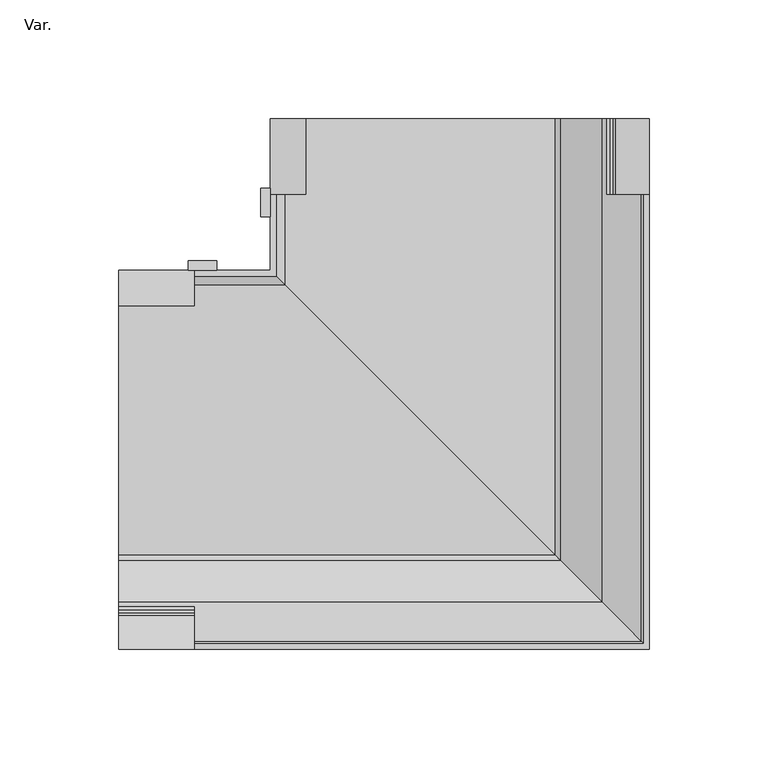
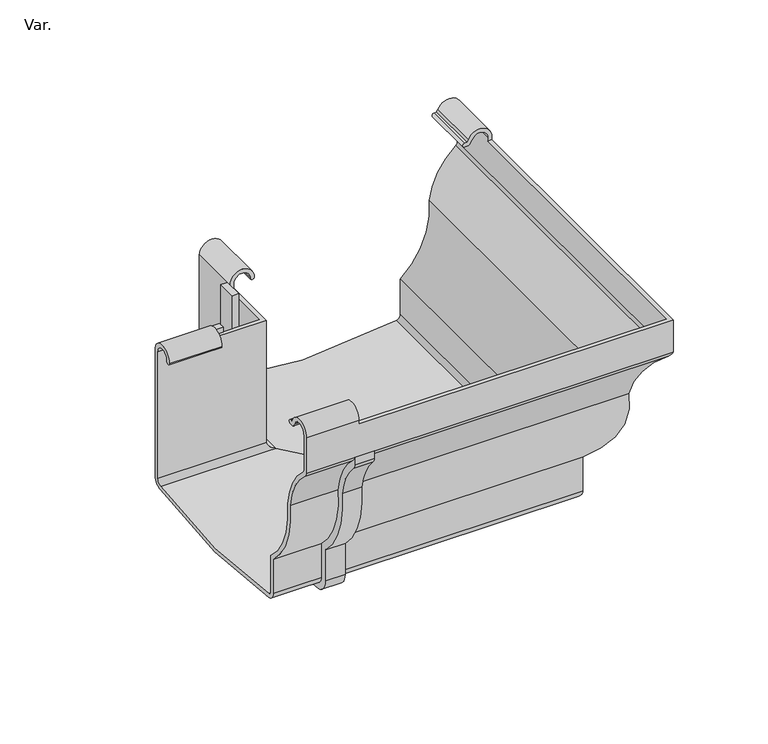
"""IFC4 building model written with IfcOpenShell, lengths in millimetres: pipe fitting geometry, PavcoWavin_UnionesDeTuberia_ZCanal Amazona_Unión Esquina Externa_NoUsarUnion : Var.."""

from ifc_helpers import new_model, si_unit, point, frame, frame_2d, origin, place, context, project, spatial, polyline, circle_curve, ellipse_curve, trimmed, segment, composite_curve, outline, extrude, source, transform, mapped, element, save
from ifc_brep_helpers import plane_surface, cylinder_surface, revolved_surface, advanced_brep


def var_76e6487b(model_context):
    return source(origin(), model_context, "Body", "SolidModel", [
        extrude(outline(composite_curve([segment(polyline([(96.4962733, 60.0049919), (14.9603918, 60.0049919)]), True, "CONTINUOUS"), segment(trimmed(circle_curve(frame_2d((14.9603918, 69.5049919)), 9.5), [point((14.9603918, 60.0049919))], [point((5.4746443, 68.9848065))], False, "CARTESIAN"), True, "CONTINUOUS"), segment(trimmed(circle_curve(frame_2d((309.4999331, 126.940598)), 309.5), [point((5.4746443, 68.9848065))], [point((5.5511355, 185.2962187))], False, "CARTESIAN"), True, "CONTINUOUS"), segment(trimmed(circle_curve(frame_2d((14.8807432, 183.5050122)), 9.5), [point((5.5511355, 185.2962187))], [point((14.9073616, 193.0049749))], False, "CARTESIAN"), True, "CONTINUOUS"), segment(polyline([(14.9073616, 193.0049749), (35.1173873, 193.0049749)]), True, "CONTINUOUS"), segment(trimmed(circle_curve(frame_2d((76.4908911, 154.5279274)), 56.5), [point((35.1173873, 193.0049749))], [point((82.3343431, 210.7249386))], False, "CARTESIAN"), True, "CONTINUOUS"), segment(trimmed(circle_curve(frame_2d((76.0467725, 251.7458656)), 41.5), [point((82.3343431, 210.7249386))], [point((105.305336, 222.3148197))], True, "CARTESIAN"), True, "CONTINUOUS"), segment(trimmed(circle_curve(frame_2d((109.5566406, 218.0384533)), 6.03), [point((105.305336, 222.3148197))], [point((108.6506267, 224.0))], False, "CARTESIAN"), True, "CONTINUOUS"), segment(polyline([(108.6506267, 224.0), (113.6433286, 224.0)]), True, "CONTINUOUS"), segment(trimmed(circle_curve(frame_2d((114.8327088, 218.630142)), 5.5), [point((113.6433286, 224.0))], [point((110.6499117, 222.2014455))], True, "CARTESIAN"), True, "CONTINUOUS"), segment(trimmed(circle_curve(frame_2d((76.0467725, 251.7458656)), 45.5), [point((110.6499117, 222.2014455))], [point((82.4106685, 206.6931096))], False, "CARTESIAN"), True, "CONTINUOUS"), segment(trimmed(circle_curve(frame_2d((76.4908911, 154.5279274)), 52.5), [point((82.4106685, 206.6931096))], [point((36.8981747, 189.0049749))], True, "CARTESIAN"), True, "CONTINUOUS"), segment(polyline([(36.8981747, 189.0049749), (14.9009967, 189.0049749)]), True, "CONTINUOUS"), segment(trimmed(circle_curve(frame_2d((14.8807432, 183.5050122)), 5.5), [point((14.9009967, 189.0049749))], [point((9.4793914, 184.5420265))], True, "CARTESIAN"), True, "CONTINUOUS"), segment(trimmed(circle_curve(frame_2d((309.4999331, 126.940598)), 305.5), [point((9.4793914, 184.5420265))], [point((9.4608251, 69.4359574))], True, "CARTESIAN"), True, "CONTINUOUS"), segment(trimmed(circle_curve(frame_2d((14.9603918, 69.5049919)), 5.5), [point((9.4608251, 69.4359574))], [point((14.9603918, 64.0049919))], True, "CARTESIAN"), True, "CONTINUOUS"), segment(polyline([(14.9603918, 64.0049919), (96.4962733, 64.0049919), (96.4962733, 60.0049919)]), True, "CONTINUOUS")], self_intersect=False)), frame((0.0, 85.6441381, 0.0), z_axis=(0.0, 1.0, 0.0), x_axis=(0.0, 0.0, 1.0)), (0.0, 0.0, 1.0), 12.0),
        advanced_brep(
        [(29.5, 67.1391462, 96.4962733), (29.5, 67.1391462, 14.9603918), (29.5, 58.1593316, 5.4746443), (29.5, -58.1520806, 5.5511355), (29.5, -65.8608368, 14.9073616), (29.5, -65.8608368, 35.1173873), (29.5, -83.5808004, 82.3343431), (29.5, -95.1706816, 105.305336), (29.5, -96.8558619, 108.6506267), (29.5, -96.8558619, 113.6433286), (29.5, -95.0573074, 110.6499117), (29.5, -79.5489715, 82.4106685), (29.5, -61.8608368, 36.8981747), (29.5, -61.8608368, 14.9009967), (29.5, -57.3978884, 9.4793914), (29.5, 57.7081808, 9.4608251), (29.5, 63.1391462, 14.9603918), (29.5, 63.1391462, 96.4962733), (41.5, 67.1391462, 96.4962733), (41.5, 63.1391462, 96.4962733), (41.5, 63.1391462, 93.5145617), (41.5, 63.1391462, 14.9603918), (41.5, 57.7081808, 9.4608251), (41.5, -57.3978884, 9.4793914), (41.5, -61.8608368, 14.9009967), (41.5, -61.8608368, 36.8981747), (41.5, -79.5489715, 82.4106685), (41.5, -95.0573074, 110.6499117), (41.5, -96.8558619, 113.6433286), (41.5, -96.8558619, 108.6506267), (41.5, -95.1706816, 105.305336), (41.5, -83.5808004, 82.3343431), (41.5, -65.8608368, 35.1173873), (41.5, -65.8608368, 14.9073616), (41.5, -58.1520806, 5.5511355), (41.5, 58.1593316, 5.4746443), (41.5, 67.1391462, 14.9603918), (32.0, 63.1391462, 96.4962733)],
        [
            (0, 1),
            (1, 2, circle_curve(frame((29.5, 57.6391462, 14.9603918), z_axis=(-1.0, 0.0, 0.0), x_axis=(0.0, -1.0, 0.0)), 9.5)),
            (2, 3, circle_curve(frame((29.5, 0.2035402, 309.4999331), z_axis=(-1.0, 0.0, 0.0), x_axis=(0.0, -1.0, 0.0)), 309.5)),
            (3, 4, circle_curve(frame((29.5, -56.3608741, 14.8807432), z_axis=(-1.0, 0.0, 0.0), x_axis=(0.0, -1.0, 0.0)), 9.5)),
            (4, 5),
            (5, 6, circle_curve(frame((29.5, -27.3837892, 76.4908911), z_axis=(-1.0, 0.0, 0.0), x_axis=(0.0, -1.0, 0.0)), 56.5)),
            (6, 7, circle_curve(frame((29.5, -124.6017275, 76.0467725), z_axis=(1.0, 0.0, 0.0), x_axis=(0.0, -1.0, 0.0)), 41.5)),
            (7, 8, circle_curve(frame((29.5, -90.8943152, 109.5566406), z_axis=(-1.0, 0.0, 0.0), x_axis=(0.0, -1.0, 0.0)), 6.03)),
            (8, 9),
            (9, 10, circle_curve(frame((29.5, -91.4860039, 114.8327088), z_axis=(1.0, 0.0, 0.0), x_axis=(0.0, -1.0, 0.0)), 5.5)),
            (10, 11, circle_curve(frame((29.5, -124.6017275, 76.0467725), z_axis=(-1.0, 0.0, 0.0), x_axis=(0.0, -1.0, 0.0)), 45.5)),
            (11, 12, circle_curve(frame((29.5, -27.3837892, 76.4908911), z_axis=(1.0, 0.0, 0.0), x_axis=(0.0, -1.0, 0.0)), 52.5)),
            (12, 13),
            (13, 14, circle_curve(frame((29.5, -56.3608741, 14.8807432), z_axis=(1.0, 0.0, 0.0), x_axis=(0.0, -1.0, 0.0)), 5.5)),
            (14, 15, circle_curve(frame((29.5, 0.2035402, 309.4999331), z_axis=(1.0, 0.0, 0.0), x_axis=(0.0, -1.0, 0.0)), 305.5)),
            (15, 16, circle_curve(frame((29.5, 57.6391462, 14.9603918), z_axis=(1.0, 0.0, 0.0), x_axis=(0.0, -1.0, 0.0)), 5.5)),
            (16, 17),
            (17, 0),
            (18, 19),
            (19, 20),
            (20, 21),
            (21, 22, circle_curve(frame((41.5, 57.6391462, 14.9603918), z_axis=(-1.0, 0.0, 0.0), x_axis=(0.0, -1.0, 0.0)), 5.5)),
            (22, 23, circle_curve(frame((41.5, 0.2035402, 309.4999331), z_axis=(-1.0, 0.0, 0.0), x_axis=(0.0, -1.0, 0.0)), 305.5)),
            (23, 24, circle_curve(frame((41.5, -56.3608741, 14.8807432), z_axis=(-1.0, 0.0, 0.0), x_axis=(0.0, -1.0, 0.0)), 5.5)),
            (24, 25),
            (25, 26, circle_curve(frame((41.5, -27.3837892, 76.4908911), z_axis=(-1.0, 0.0, 0.0), x_axis=(0.0, -1.0, 0.0)), 52.5)),
            (26, 27, circle_curve(frame((41.5, -124.6017275, 76.0467725), z_axis=(1.0, 0.0, 0.0), x_axis=(0.0, -1.0, 0.0)), 45.5)),
            (27, 28, circle_curve(frame((41.5, -91.4860039, 114.8327088), z_axis=(-1.0, 0.0, 0.0), x_axis=(0.0, -1.0, 0.0)), 5.5)),
            (28, 29),
            (29, 30, circle_curve(frame((41.5, -90.8943152, 109.5566406), z_axis=(1.0, 0.0, 0.0), x_axis=(0.0, -1.0, 0.0)), 6.03)),
            (30, 31, circle_curve(frame((41.5, -124.6017275, 76.0467725), z_axis=(-1.0, 0.0, 0.0), x_axis=(0.0, -1.0, 0.0)), 41.5)),
            (31, 32, circle_curve(frame((41.5, -27.3837892, 76.4908911), z_axis=(1.0, 0.0, 0.0), x_axis=(0.0, -1.0, 0.0)), 56.5)),
            (32, 33),
            (33, 34, circle_curve(frame((41.5, -56.3608741, 14.8807432), z_axis=(1.0, 0.0, 0.0), x_axis=(0.0, -1.0, 0.0)), 9.5)),
            (34, 35, circle_curve(frame((41.5, 0.2035402, 309.4999331), z_axis=(1.0, 0.0, 0.0), x_axis=(0.0, -1.0, 0.0)), 309.5)),
            (35, 36, circle_curve(frame((41.5, 57.6391462, 14.9603918), z_axis=(1.0, 0.0, 0.0), x_axis=(0.0, -1.0, 0.0)), 9.5)),
            (36, 18),
            (17, 37),
            (37, 19),
            (18, 0),
            (16, 21),
            (15, 22),
            (14, 23),
            (13, 24),
            (12, 25),
            (11, 26),
            (10, 27),
            (9, 28),
            (8, 29),
            (7, 30),
            (6, 31),
            (5, 32),
            (4, 33),
            (3, 34),
            (2, 35),
            (1, 36),
        ],
        [
            plane_surface(frame((29.5, 67.1391462, 96.4962733), z_axis=(-1.0, 0.0, 0.0), x_axis=(0.0, 0.0, 1.0))),
            plane_surface(frame((41.5, 67.1391462, 96.4962733), z_axis=(1.0, 0.0, 0.0), x_axis=(0.0, 0.0, -1.0))),
            plane_surface(frame((41.5, 63.1391462, 96.4962733), z_axis=(0.0, 0.0, 1.0), x_axis=(-1.0, 0.0, 0.0))),
            plane_surface(frame((41.5, 63.1391462, 14.9603918), z_axis=(0.0, -1.0, 0.0), x_axis=(-1.0, 0.0, 0.0))),
            revolved_surface(polyline([(29.5, 52.1391462, 14.9603918), (41.5, 52.1391462, 14.9603918)]), (29.5, 57.6391462, 14.9603918), (-1.0, 0.0, 0.0)),
            revolved_surface(polyline([(29.5, -305.2964598, 309.4999331), (41.5, -305.2964598, 309.4999331)]), (29.5, 0.2035402, 309.4999331), (-1.0, 0.0, 0.0)),
            revolved_surface(polyline([(29.5, -61.8608741, 14.8807432), (41.5, -61.8608741, 14.8807432)]), (29.5, -56.3608741, 14.8807432), (-1.0, 0.0, 0.0)),
            plane_surface(frame((41.5, -61.8608368, 36.8981747), z_axis=(0.0, 1.0, 0.0), x_axis=(-1.0, 0.0, 0.0))),
            revolved_surface(polyline([(29.5, -79.8837892, 76.4908911), (41.5, -79.8837892, 76.4908911)]), (29.5, -27.3837892, 76.4908911), (-1.0, 0.0, 0.0)),
            cylinder_surface(frame((29.5, -124.6017275, 76.0467725), z_axis=(1.0, 0.0, 0.0), x_axis=(0.0, -1.0, 0.0)), 45.5),
            revolved_surface(polyline([(29.5, -96.9860039, 114.8327088), (41.5, -96.9860039, 114.8327088)]), (29.5, -91.4860039, 114.8327088), (-1.0, 0.0, 0.0)),
            plane_surface(frame((41.5, -96.8558619, 108.6506267), z_axis=(0.0, -1.0, 0.0), x_axis=(-1.0, 0.0, 0.0))),
            cylinder_surface(frame((29.5, -90.8943152, 109.5566406), z_axis=(1.0, 0.0, 0.0), x_axis=(0.0, -1.0, 0.0)), 6.03),
            revolved_surface(polyline([(29.5, -166.10172749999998, 76.0467725), (41.5, -166.10172749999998, 76.0467725)]), (29.5, -124.6017275, 76.0467725), (-1.0, 0.0, 0.0)),
            cylinder_surface(frame((29.5, -27.3837892, 76.4908911), z_axis=(1.0, 0.0, 0.0), x_axis=(0.0, -1.0, 0.0)), 56.5),
            plane_surface(frame((41.5, -65.8608368, 14.9073616), z_axis=(0.0, -1.0, 0.0), x_axis=(-1.0, 0.0, 0.0))),
            cylinder_surface(frame((29.5, -56.3608741, 14.8807432), z_axis=(1.0, 0.0, 0.0), x_axis=(0.0, -1.0, 0.0)), 9.5),
            cylinder_surface(frame((29.5, 0.2035402, 309.4999331), z_axis=(1.0, 0.0, 0.0), x_axis=(0.0, -1.0, 0.0)), 309.5),
            cylinder_surface(frame((29.5, 57.6391462, 14.9603918), z_axis=(1.0, 0.0, 0.0), x_axis=(0.0, -1.0, 0.0)), 9.5),
            plane_surface(frame((41.5, 67.1391462, 96.4962733), z_axis=(0.0, 1.0, 0.0), x_axis=(-1.0, 0.0, 0.0))),
        ],
        [
            (0, [[1, 2, 3, 4, 5, 6, 7, 8, 9, 10, 11, 12, 13, 14, 15, 16, 17, 18]]),
            (1, [[19, 20, 21, 22, 23, 24, 25, 26, 27, 28, 29, 30, 31, 32, 33, 34, 35, 36, 37]]),
            (2, [[38, 39, -19, 40, -18]]),
            (3, [[41, -21, -20, -39, -38, -17]]),
            (4, [[42, -22, -41, -16]]),
            (5, [[43, -23, -42, -15]]),
            (6, [[44, -24, -43, -14]]),
            (7, [[45, -25, -44, -13]]),
            (8, [[46, -26, -45, -12]]),
            (9, [[47, -27, -46, -11]]),
            (10, [[48, -28, -47, -10]]),
            (11, [[49, -29, -48, -9]]),
            (12, [[50, -30, -49, -8]]),
            (13, [[51, -31, -50, -7]]),
            (14, [[52, -32, -51, -6]]),
            (15, [[53, -33, -52, -5]]),
            (16, [[54, -34, -53, -4]]),
            (17, [[55, -35, -54, -3]]),
            (18, [[56, -36, -55, -2]]),
            (19, [[-40, -37, -56, -1]]),
        ],
    ),
        advanced_brep(
        [(0.0, 60.6391462, 96.4962733), (0.0, 50.6391462, 96.4962733), (0.0, 48.1391462, 96.4962733), (0.0, 63.1391462, 96.4962733), (0.0, 63.1391462, 14.8917906), (0.0, 57.3791008, 9.3979416), (0.0, -56.9720205, 9.3979416), (0.0, -61.8608538, 14.8917906), (0.0, -61.8608538, 36.8981894), (0.0, -79.5489715, 82.4106685), (0.0, -95.0573074, 110.6499117), (0.0, -96.8558619, 113.6433286), (0.0, -96.8558619, 136.5003446), (0.0, -82.4334339, 139.3865168), (0.0, -81.4533263, 137.9155581), (0.0, -80.1012344, 137.9155581), (0.0, -80.1012344, 135.4155581), (0.0, -82.3118155, 135.4155581), (0.0, -83.091705, 135.8658276), (0.0, -84.6616024, 138.2219509), (0.0, -94.3558619, 136.5003446), (0.0, -94.3558619, 114.5511348), (0.0, -93.2975048, 112.2642105), (0.0, -77.0397315, 82.3464353), (0.0, -59.3608538, 38.0530537), (0.0, -59.3608538, 14.8917906), (0.0, -56.9265182, 11.9345513), (0.0, 57.1074368, 11.8912192), (0.0, 60.6391462, 14.8917906), (66.5049919, 60.6391462, 14.8917906), (66.5049919, 60.6391462, 93.5145617), (32.0, 60.6391462, 93.5145617), (32.0, 60.6391462, 96.4962733), (70.0367013, 57.1074368, 11.8912192), (69.5046057, 57.6395324, 11.8436545), (184.0706564, -56.9265182, 11.9345513), (126.940598, 0.2035402, 6.4999331), (186.5049919, -59.3608538, 14.8917906), (186.5049919, -59.3608538, 38.0530537), (204.1838696, -77.0397315, 82.3464353), (220.4416429, -93.2975048, 112.2642105), (221.5, -94.3558619, 114.5511348), (32.0, -94.3558619, 136.5003446), (32.0, -94.3558619, 134.3054661), (221.5, -94.3558619, 134.3054661), (32.0, -84.6616024, 138.2219509), (32.0, -83.091705, 135.8658276), (32.0, -82.3118155, 135.4155581), (32.0, -80.1012344, 135.4155581), (32.0, -80.1012344, 137.9155581), (32.0, -81.4533263, 137.9155581), (224.0, -96.8558619, 113.6433286), (224.0, -96.8558619, 134.3054661), (32.0, -96.8558619, 134.3054661), (32.0, -96.8558619, 136.5003446), (222.2014455, -95.0573074, 110.6499117), (206.6931096, -79.5489715, 82.4106685), (189.0049919, -61.8608538, 36.8981894), (189.0049919, -61.8608538, 14.8917906), (184.1161586, -56.9720205, 9.3979416), (69.7650373, 57.3791008, 9.3979416), (126.940598, 0.2035402, 3.9999331), (64.0049919, 63.1391462, 14.8917906), (69.5049919, 57.6391462, 9.3917906), (32.0, 63.1391462, 96.4962733), (32.0, 63.1391462, 93.5145617), (64.0049919, 63.1391462, 93.5145617), (32.0, 48.1391462, 96.4962733), (32.0, 50.6391462, 96.4962733), (32.0, -82.4334339, 139.3865168), (224.0, 95.1441381, 134.3054661), (221.5, 95.1441381, 134.3054661), (66.5049919, 95.1441381, 93.5145617), (64.0049919, 95.1441381, 93.5145617), (66.5049919, 127.1441381, 96.4962733), (66.5049919, 127.1441381, 14.8917906), (70.0367013, 127.1441381, 11.8912192), (184.0706564, 127.1441381, 11.9345513), (186.5049919, 127.1441381, 14.8917906), (186.5049919, 127.1441381, 38.0530537), (204.1838696, 127.1441381, 82.3464353), (220.4416429, 127.1441381, 112.2642105), (221.5, 127.1441381, 114.5511348), (221.5, 127.1441381, 136.5003446), (211.8057406, 127.1441381, 138.2219509), (210.2358431, 127.1441381, 135.8658276), (209.4559536, 127.1441381, 135.4155581), (207.2453725, 127.1441381, 135.4155581), (207.2453725, 127.1441381, 137.9155581), (208.5974644, 127.1441381, 137.9155581), (209.577572, 127.1441381, 139.3865168), (224.0, 127.1441381, 136.5003446), (224.0, 127.1441381, 113.6433286), (222.2014455, 127.1441381, 110.6499117), (206.6931096, 127.1441381, 82.4106685), (189.0049919, 127.1441381, 36.8981894), (189.0049919, 127.1441381, 14.8917906), (184.1161586, 127.1441381, 9.3979416), (69.7650373, 127.1441381, 9.3979416), (64.0049919, 127.1441381, 14.8917906), (64.0049919, 127.1441381, 96.4962733), (79.0049919, 127.1441381, 96.4962733), (76.5049919, 127.1441381, 96.4962733), (66.5049919, 95.1441381, 96.4962733), (221.5, 95.1441381, 136.5003446), (211.8057406, 95.1441381, 138.2219509), (210.2358431, 95.1441381, 135.8658276), (209.4559536, 95.1441381, 135.4155581), (207.2453725, 95.1441381, 135.4155581), (207.2453725, 95.1441381, 137.9155581), (208.5974644, 95.1441381, 137.9155581), (224.0, 95.1441381, 136.5003446), (64.0049919, 95.1441381, 96.4962733), (79.0049919, 95.1441381, 96.4962733), (76.5049919, 95.1441381, 96.4962733), (209.577572, 95.1441381, 139.3865168)],
        [
            (0, 1, circle_curve(frame((0.0, 55.6391462, 96.4962733), z_axis=(1.0, 0.0, 0.0), x_axis=(0.0, -1.0, 0.0)), 5.0)),
            (1, 2, circle_curve(frame((0.0, 49.3891462, 96.4962733), z_axis=(-1.0, 0.0, 0.0), x_axis=(0.0, -1.0, 0.0)), 1.25)),
            (2, 3, circle_curve(frame((0.0, 55.6391462, 96.4962733), z_axis=(-1.0, 0.0, 0.0), x_axis=(0.0, -1.0, 0.0)), 7.5)),
            (3, 4),
            (4, 5, circle_curve(frame((0.0, 57.6391462, 14.8917906), z_axis=(-1.0, 0.0, 0.0), x_axis=(0.0, -1.0, 0.0)), 5.5)),
            (5, 6, circle_curve(frame((0.0, 0.2035402, 309.4999331), z_axis=(-1.0, 0.0, 0.0), x_axis=(0.0, -1.0, 0.0)), 305.5)),
            (6, 7, circle_curve(frame((0.0, -56.3295681, 14.8917906), z_axis=(-1.0, 0.0, 0.0), x_axis=(0.0, -1.0, 0.0)), 5.5312857)),
            (7, 8),
            (8, 9, circle_curve(frame((0.0, -27.3837892, 76.4908911), z_axis=(-1.0, 0.0, 0.0), x_axis=(0.0, -1.0, 0.0)), 52.5)),
            (9, 10, circle_curve(frame((0.0, -124.6017275, 76.0467725), z_axis=(1.0, 0.0, 0.0), x_axis=(0.0, -1.0, 0.0)), 45.5)),
            (10, 11, circle_curve(frame((0.0, -91.4860039, 114.8327088), z_axis=(-1.0, 0.0, 0.0), x_axis=(0.0, -1.0, 0.0)), 5.5)),
            (11, 12),
            (12, 13, circle_curve(frame((0.0, -89.3558619, 136.5003446), z_axis=(-1.0, 0.0, 0.0), x_axis=(0.0, -1.0, 0.0)), 7.5)),
            (13, 14),
            (14, 15),
            (15, 16, circle_curve(frame((0.0, -80.1012344, 136.6655581), z_axis=(-1.0, 0.0, 0.0), x_axis=(0.0, -1.0, 0.0)), 1.25)),
            (16, 17),
            (17, 18, circle_curve(frame((0.0, -82.0479215, 136.7731747), z_axis=(-1.0, 0.0, 0.0), x_axis=(0.0, -1.0, 0.0)), 1.3830266)),
            (18, 19),
            (19, 20, circle_curve(frame((0.0, -89.3558619, 136.5003446), z_axis=(1.0, 0.0, 0.0), x_axis=(0.0, -1.0, 0.0)), 5.0)),
            (20, 21),
            (21, 22, circle_curve(frame((0.0, -91.3558619, 114.5511348), z_axis=(1.0, 0.0, 0.0), x_axis=(0.0, -1.0, 0.0)), 3.0)),
            (22, 23, circle_curve(frame((0.0, -124.6017275, 75.8767725), z_axis=(-1.0, 0.0, 0.0), x_axis=(0.0, -1.0, 0.0)), 48.0)),
            (23, 24, circle_curve(frame((0.0, -27.3837892, 76.4908911), z_axis=(1.0, 0.0, 0.0), x_axis=(0.0, -1.0, 0.0)), 50.0)),
            (24, 25),
            (25, 26, circle_curve(frame((0.0, -56.3608741, 14.8807432), z_axis=(1.0, 0.0, 0.0), x_axis=(0.0, -1.0, 0.0)), 3.0)),
            (26, 27, circle_curve(frame((0.0, 0.2035402, 309.4999331), z_axis=(1.0, 0.0, 0.0), x_axis=(0.0, -1.0, 0.0)), 303.0)),
            (27, 28, circle_curve(frame((0.0, 57.6395324, 14.8436545), z_axis=(1.0, 0.0, 0.0), x_axis=(0.0, 1.0, 0.0)), 3.0)),
            (28, 0),
            (28, 29),
            (29, 30),
            (30, 31),
            (31, 32),
            (32, 0),
            (27, 33),
            (33, 34, ellipse_curve(frame((69.5046057, 57.6395324, 14.8436545), z_axis=(0.7071067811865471, 0.707106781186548, 0.0), x_axis=(-0.7071067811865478, 0.7071067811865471, 0.0)), 4.2426407, 3.0)),
            (34, 29, ellipse_curve(frame((69.5046057, 57.6395324, 14.8436545), z_axis=(0.7071067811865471, 0.707106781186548, 0.0), x_axis=(-0.7071067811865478, 0.7071067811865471, 0.0)), 4.2426407, 3.0)),
            (26, 35),
            (35, 36, ellipse_curve(frame((126.940598, 0.2035402, 309.4999331), z_axis=(0.7071067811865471, 0.707106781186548, 0.0), x_axis=(-0.7071067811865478, 0.7071067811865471, 0.0)), 428.5067094, 303.0)),
            (36, 33, ellipse_curve(frame((126.940598, 0.2035402, 309.4999331), z_axis=(0.7071067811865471, 0.707106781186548, 0.0), x_axis=(-0.7071067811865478, 0.7071067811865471, 0.0)), 428.5067094, 303.0)),
            (25, 37),
            (37, 35, ellipse_curve(frame((183.5050122, -56.3608741, 14.8807432), z_axis=(0.7071067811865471, 0.707106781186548, 0.0), x_axis=(-0.7071067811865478, 0.7071067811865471, 0.0)), 4.2426407, 3.0)),
            (24, 38),
            (38, 37),
            (23, 39),
            (39, 38, ellipse_curve(frame((154.5279274, -27.3837892, 76.4908911), z_axis=(0.7071067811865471, 0.707106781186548, 0.0), x_axis=(-0.7071067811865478, 0.7071067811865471, 0.0)), 70.7106781, 50.0)),
            (22, 40),
            (40, 39, ellipse_curve(frame((251.7458656, -124.6017275, 75.8767725), z_axis=(-0.7071067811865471, -0.707106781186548, 0.0), x_axis=(0.7071067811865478, -0.7071067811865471, 0.0)), 67.882251, 48.0)),
            (21, 41),
            (41, 40, ellipse_curve(frame((218.5, -91.3558619, 114.5511348), z_axis=(0.7071067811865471, 0.707106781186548, 0.0), x_axis=(-0.7071067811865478, 0.7071067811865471, 0.0)), 4.2426407, 3.0)),
            (20, 42),
            (42, 43),
            (43, 44),
            (44, 41),
            (19, 45),
            (45, 42, circle_curve(frame((32.0, -89.3558619, 136.5003446), z_axis=(1.0, 0.0, 0.0), x_axis=(0.0, -1.0, 0.0)), 5.0)),
            (18, 46),
            (46, 45),
            (17, 47),
            (47, 46, circle_curve(frame((32.0, -82.0479215, 136.7731747), z_axis=(-1.0, 0.0, 0.0), x_axis=(0.0, -1.0, 0.0)), 1.3830266)),
            (16, 48),
            (48, 47),
            (15, 49),
            (49, 48, circle_curve(frame((32.0, -80.1012344, 136.6655581), z_axis=(-1.0, 0.0, 0.0), x_axis=(0.0, -1.0, 0.0)), 1.25)),
            (14, 50),
            (50, 49),
            (11, 51),
            (51, 52),
            (52, 53),
            (53, 54),
            (54, 12),
            (10, 55),
            (55, 51, ellipse_curve(frame((218.630142, -91.4860039, 114.8327088), z_axis=(-0.7071067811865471, -0.707106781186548, 0.0), x_axis=(0.7071067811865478, -0.7071067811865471, 0.0)), 7.7781746, 5.5)),
            (9, 56),
            (56, 55, ellipse_curve(frame((251.7458656, -124.6017275, 76.0467725), z_axis=(0.7071067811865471, 0.707106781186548, 0.0), x_axis=(-0.7071067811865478, 0.7071067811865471, 0.0)), 64.3467171, 45.5)),
            (8, 57),
            (57, 56, ellipse_curve(frame((154.5279274, -27.3837892, 76.4908911), z_axis=(-0.7071067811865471, -0.707106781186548, 0.0), x_axis=(0.7071067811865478, -0.7071067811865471, 0.0)), 74.246212, 52.5)),
            (7, 58),
            (58, 57),
            (6, 59),
            (59, 58, ellipse_curve(frame((183.4737062, -56.3295681, 14.8917906), z_axis=(-0.7071067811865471, -0.707106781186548, 0.0), x_axis=(0.7071067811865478, -0.7071067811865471, 0.0)), 7.8224192, 5.5312857)),
            (5, 60),
            (60, 61, ellipse_curve(frame((126.940598, 0.2035402, 309.4999331), z_axis=(-0.7071067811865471, -0.707106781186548, 0.0), x_axis=(0.7071067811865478, -0.7071067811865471, 0.0)), 432.0422433, 305.5)),
            (61, 59, ellipse_curve(frame((126.940598, 0.2035402, 309.4999331), z_axis=(-0.7071067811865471, -0.707106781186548, 0.0), x_axis=(0.7071067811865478, -0.7071067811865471, 0.0)), 432.0422433, 305.5)),
            (4, 62),
            (62, 63, ellipse_curve(frame((69.5049919, 57.6391462, 14.8917906), z_axis=(-0.7071067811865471, -0.707106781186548, 0.0), x_axis=(0.7071067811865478, -0.7071067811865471, 0.0)), 7.7781746, 5.5)),
            (63, 60, ellipse_curve(frame((69.5049919, 57.6391462, 14.8917906), z_axis=(-0.7071067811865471, -0.707106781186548, 0.0), x_axis=(0.7071067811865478, -0.7071067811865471, 0.0)), 7.7781746, 5.5)),
            (3, 64),
            (64, 65),
            (65, 66),
            (66, 62),
            (2, 67),
            (67, 64, circle_curve(frame((32.0, 55.6391462, 96.4962733), z_axis=(-1.0, 0.0, 0.0), x_axis=(0.0, -1.0, 0.0)), 7.5)),
            (1, 68),
            (68, 67, circle_curve(frame((32.0, 49.3891462, 96.4962733), z_axis=(-1.0, 0.0, 0.0), x_axis=(0.0, -1.0, 0.0)), 1.25)),
            (32, 68, circle_curve(frame((32.0, 55.6391462, 96.4962733), z_axis=(1.0, 0.0, 0.0), x_axis=(0.0, -1.0, 0.0)), 5.0)),
            (13, 69),
            (69, 50),
            (54, 69, circle_curve(frame((32.0, -89.3558619, 136.5003446), z_axis=(-1.0, 0.0, 0.0), x_axis=(0.0, -1.0, 0.0)), 7.5)),
            (53, 43),
            (31, 65),
            (52, 70),
            (70, 71),
            (71, 44),
            (30, 72),
            (72, 73),
            (73, 66),
            (74, 75),
            (75, 76, circle_curve(frame((69.5046057, 127.1441381, 14.8436545), z_axis=(0.0, -1.0, 0.0), x_axis=(-1.0, 0.0, 0.0)), 3.0)),
            (76, 77, circle_curve(frame((126.940598, 127.1441381, 309.4999331), z_axis=(0.0, -1.0, 0.0), x_axis=(1.0, 0.0, 0.0)), 303.0)),
            (77, 78, circle_curve(frame((183.5050122, 127.1441381, 14.8807432), z_axis=(0.0, -1.0, 0.0), x_axis=(1.0, 0.0, 0.0)), 3.0)),
            (78, 79),
            (79, 80, circle_curve(frame((154.5279274, 127.1441381, 76.4908911), z_axis=(0.0, -1.0, 0.0), x_axis=(1.0, 0.0, 0.0)), 50.0)),
            (80, 81, circle_curve(frame((251.7458656, 127.1441381, 75.8767725), z_axis=(0.0, 1.0, 0.0), x_axis=(1.0, 0.0, 0.0)), 48.0)),
            (81, 82, circle_curve(frame((218.5, 127.1441381, 114.5511348), z_axis=(0.0, -1.0, 0.0), x_axis=(1.0, 0.0, 0.0)), 3.0)),
            (82, 83),
            (83, 84, circle_curve(frame((216.5, 127.1441381, 136.5003446), z_axis=(0.0, -1.0, 0.0), x_axis=(1.0, 0.0, 0.0)), 5.0)),
            (84, 85),
            (85, 86, circle_curve(frame((209.1920596, 127.1441381, 136.7731747), z_axis=(0.0, 1.0, 0.0), x_axis=(1.0, 0.0, 0.0)), 1.3830266)),
            (86, 87),
            (87, 88, circle_curve(frame((207.2453725, 127.1441381, 136.6655581), z_axis=(0.0, 1.0, 0.0), x_axis=(1.0, 0.0, 0.0)), 1.25)),
            (88, 89),
            (89, 90),
            (90, 91, circle_curve(frame((216.5, 127.1441381, 136.5003446), z_axis=(0.0, 1.0, 0.0), x_axis=(1.0, 0.0, 0.0)), 7.5)),
            (91, 92),
            (92, 93, circle_curve(frame((218.630142, 127.1441381, 114.8327088), z_axis=(0.0, 1.0, 0.0), x_axis=(1.0, 0.0, 0.0)), 5.5)),
            (93, 94, circle_curve(frame((251.7458656, 127.1441381, 76.0467725), z_axis=(0.0, -1.0, 0.0), x_axis=(1.0, 0.0, 0.0)), 45.5)),
            (94, 95, circle_curve(frame((154.5279274, 127.1441381, 76.4908911), z_axis=(0.0, 1.0, 0.0), x_axis=(1.0, 0.0, 0.0)), 52.5)),
            (95, 96),
            (96, 97, circle_curve(frame((183.4737062, 127.1441381, 14.8917906), z_axis=(0.0, 1.0, 0.0), x_axis=(1.0, 0.0, 0.0)), 5.5312857)),
            (97, 98, circle_curve(frame((126.940598, 127.1441381, 309.4999331), z_axis=(0.0, 1.0, 0.0), x_axis=(1.0, 0.0, 0.0)), 305.5)),
            (98, 99, circle_curve(frame((69.5049919, 127.1441381, 14.8917906), z_axis=(0.0, 1.0, 0.0), x_axis=(1.0, 0.0, 0.0)), 5.5)),
            (99, 100),
            (100, 101, circle_curve(frame((71.5049919, 127.1441381, 96.4962733), z_axis=(0.0, 1.0, 0.0), x_axis=(1.0, 0.0, 0.0)), 7.5)),
            (101, 102, circle_curve(frame((77.7549919, 127.1441381, 96.4962733), z_axis=(0.0, 1.0, 0.0), x_axis=(1.0, 0.0, 0.0)), 1.25)),
            (102, 74, circle_curve(frame((71.5049919, 127.1441381, 96.4962733), z_axis=(0.0, -1.0, 0.0), x_axis=(1.0, 0.0, 0.0)), 5.0)),
            (74, 103),
            (103, 72),
            (29, 75),
            (33, 76),
            (35, 77),
            (37, 78),
            (38, 79),
            (39, 80),
            (40, 81),
            (41, 82),
            (71, 104),
            (104, 83),
            (104, 105, circle_curve(frame((216.5, 95.1441381, 136.5003446), z_axis=(0.0, -1.0, 0.0), x_axis=(1.0, 0.0, 0.0)), 5.0)),
            (105, 84),
            (105, 106),
            (106, 85),
            (106, 107, circle_curve(frame((209.1920596, 95.1441381, 136.7731747), z_axis=(0.0, 1.0, 0.0), x_axis=(1.0, 0.0, 0.0)), 1.3830266)),
            (107, 86),
            (107, 108),
            (108, 87),
            (108, 109, circle_curve(frame((207.2453725, 95.1441381, 136.6655581), z_axis=(0.0, 1.0, 0.0), x_axis=(1.0, 0.0, 0.0)), 1.25)),
            (109, 88),
            (109, 110),
            (110, 89),
            (91, 111),
            (111, 70),
            (51, 92),
            (55, 93),
            (56, 94),
            (57, 95),
            (58, 96),
            (59, 97),
            (60, 98),
            (62, 99),
            (73, 112),
            (112, 100),
            (112, 113, circle_curve(frame((71.5049919, 95.1441381, 96.4962733), z_axis=(0.0, 1.0, 0.0), x_axis=(1.0, 0.0, 0.0)), 7.5)),
            (113, 101),
            (113, 114, circle_curve(frame((77.7549919, 95.1441381, 96.4962733), z_axis=(0.0, 1.0, 0.0), x_axis=(1.0, 0.0, 0.0)), 1.25)),
            (114, 102),
            (114, 103, circle_curve(frame((71.5049919, 95.1441381, 96.4962733), z_axis=(0.0, -1.0, 0.0), x_axis=(1.0, 0.0, 0.0)), 5.0)),
            (110, 115),
            (115, 90),
            (115, 111, circle_curve(frame((216.5, 95.1441381, 136.5003446), z_axis=(0.0, 1.0, 0.0), x_axis=(1.0, 0.0, 0.0)), 7.5)),
        ],
        [
            plane_surface(frame((0.0, 50.6391462, 96.4962733), z_axis=(-1.0, 0.0, 0.0), x_axis=(0.0, 0.0, 1.0))),
            plane_surface(frame((224.0, 60.6391462, 14.8917906), z_axis=(0.0, -1.0, 0.0), x_axis=(-1.0, 0.0, 0.0))),
            revolved_surface(polyline([(0.0, 60.6395324, 14.8436545), (72.50460570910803, 60.6395324, 14.8436545)]), (0.0, 57.6395324, 14.8436545), (-1.0, 0.0, 0.0)),
            revolved_surface(polyline([(-176.05940200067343, -302.7964598, 309.4999331), (429.9405980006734, -302.7964598, 309.4999331)]), (0.0, 0.2035402, 309.4999331), (-1.0, 0.0, 0.0)),
            revolved_surface(polyline([(0.0, -59.3608741, 14.8807432), (186.50501220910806, -59.3608741, 14.8807432)]), (0.0, -56.3608741, 14.8807432), (-1.0, 0.0, 0.0)),
            plane_surface(frame((224.0, -59.3608538, 38.0530537), z_axis=(0.0, 1.0, 0.0), x_axis=(-1.0, 0.0, 0.0))),
            revolved_surface(polyline([(0.0, -77.3837892, 76.4908911), (204.52792738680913, -77.3837892, 76.4908911)]), (0.0, -27.3837892, 76.4908911), (-1.0, 0.0, 0.0)),
            cylinder_surface(frame((0.0, -124.6017275, 75.8767725), z_axis=(1.0, 0.0, 0.0), x_axis=(0.0, -1.0, 0.0)), 48.0),
            revolved_surface(polyline([(0.0, -94.3558619, 114.5511348), (221.50000000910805, -94.3558619, 114.5511348)]), (0.0, -91.3558619, 114.5511348), (-1.0, 0.0, 0.0)),
            plane_surface(frame((224.0, -94.3558619, 136.5003446), z_axis=(0.0, 1.0, 0.0), x_axis=(-1.0, 0.0, 0.0))),
            revolved_surface(polyline([(0.0, -94.3558619, 136.5003446), (32.0, -94.3558619, 136.5003446)]), (0.0, -89.3558619, 136.5003446), (-1.0, 0.0, 0.0)),
            plane_surface(frame((224.0, -83.091705, 135.8658276), z_axis=(0.0, -0.832189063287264, -0.5544919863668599), x_axis=(-1.0, 0.0, 0.0))),
            cylinder_surface(frame((0.0, -82.0479215, 136.7731747), z_axis=(1.0, 0.0, 0.0), x_axis=(0.0, -1.0, 0.0)), 1.3830266),
            plane_surface(frame((224.0, -80.1012344, 135.4155581), z_axis=(0.0, 0.0, -1.0), x_axis=(-1.0, 0.0, 0.0))),
            cylinder_surface(frame((0.0, -80.1012344, 136.6655581), z_axis=(1.0, 0.0, 0.0), x_axis=(0.0, -1.0, 0.0)), 1.25),
            plane_surface(frame((224.0, -81.4533263, 137.9155581), z_axis=(0.0, 0.0, 1.0), x_axis=(-1.0, 0.0, 0.0))),
            plane_surface(frame((224.0, -96.8558619, 113.6433286), z_axis=(0.0, -1.0, 0.0), x_axis=(-1.0, 0.0, 0.0))),
            cylinder_surface(frame((0.0, -91.4860039, 114.8327088), z_axis=(1.0, 0.0, 0.0), x_axis=(0.0, -1.0, 0.0)), 5.5),
            revolved_surface(polyline([(0.0, -170.10172749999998, 76.0467725), (297.2458656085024, -170.10172749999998, 76.0467725)]), (0.0, -124.6017275, 76.0467725), (-1.0, 0.0, 0.0)),
            cylinder_surface(frame((0.0, -27.3837892, 76.4908911), z_axis=(1.0, 0.0, 0.0), x_axis=(0.0, -1.0, 0.0)), 52.5),
            plane_surface(frame((224.0, -61.8608538, 14.8917906), z_axis=(0.0, -1.0, 0.0), x_axis=(-1.0, 0.0, 0.0))),
            cylinder_surface(frame((0.0, -56.3295681, 14.8917906), z_axis=(1.0, 0.0, 0.0), x_axis=(0.0, -1.0, 0.0)), 5.5312857),
            cylinder_surface(frame((0.0, 0.2035402, 309.4999331), z_axis=(1.0, 0.0, 0.0), x_axis=(0.0, -1.0, 0.0)), 305.5),
            cylinder_surface(frame((0.0, 57.6391462, 14.8917906), z_axis=(1.0, 0.0, 0.0), x_axis=(0.0, -1.0, 0.0)), 5.5),
            plane_surface(frame((224.0, 63.1391462, 96.4962733), z_axis=(0.0, 1.0, 0.0), x_axis=(-1.0, 0.0, 0.0))),
            cylinder_surface(frame((0.0, 55.6391462, 96.4962733), z_axis=(1.0, 0.0, 0.0), x_axis=(0.0, -1.0, 0.0)), 7.5),
            cylinder_surface(frame((0.0, 49.3891462, 96.4962733), z_axis=(1.0, 0.0, 0.0), x_axis=(0.0, -1.0, 0.0)), 1.25),
            revolved_surface(polyline([(0.0, 50.6391462, 96.4962733), (32.0, 50.6391462, 96.4962733)]), (0.0, 55.6391462, 96.4962733), (-1.0, 0.0, 0.0)),
            plane_surface(frame((224.0, -82.4334339, 139.3865168), z_axis=(0.0, 0.8321890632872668, 0.5544919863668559), x_axis=(-1.0, 0.0, 0.0))),
            cylinder_surface(frame((0.0, -89.3558619, 136.5003446), z_axis=(1.0, 0.0, 0.0), x_axis=(0.0, -1.0, 0.0)), 7.5),
            plane_surface(frame((32.0, -96.8558619, 134.3054661), z_axis=(1.0, 0.0, 0.0), x_axis=(0.0, 0.0, -1.0))),
            plane_surface(frame((224.0, -78.2524498, 134.3054661), z_axis=(0.0, 0.0, 1.0), x_axis=(-1.0, 0.0, 0.0))),
            plane_surface(frame((224.0, 63.1391462, 93.5145617), z_axis=(0.0, 0.0, 1.0), x_axis=(-1.0, 0.0, 0.0))),
            plane_surface(frame((66.5049919, 127.1441381, 15.6878033), z_axis=(0.0, 1.0, 0.0), x_axis=(0.0, 0.0, 1.0))),
            plane_surface(frame((66.5049919, -96.8558619, 96.4962733), z_axis=(1.0, 0.0, 0.0), x_axis=(0.0, 1.0, 0.0))),
            revolved_surface(polyline([(66.5046057, 127.1441381, 14.8436545), (66.5046057, 54.63953239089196, 14.8436545)]), (69.5046057, 127.1441381, 14.8436545), (0.0, 1.0, 0.0)),
            revolved_surface(polyline([(429.940598, 303.20354020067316, 309.4999331), (429.940598, -302.7964598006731, 309.4999331)]), (126.940598, 127.1441381, 309.4999331), (0.0, 1.0, 0.0)),
            revolved_surface(polyline([(186.5050122, 127.1441381, 14.8807432), (186.5050122, -59.36087410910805, 14.8807432)]), (183.5050122, 127.1441381, 14.8807432), (0.0, 1.0, 0.0)),
            plane_surface(frame((186.5049919, -96.8558619, 14.8917906), z_axis=(-1.0, 0.0, 0.0), x_axis=(0.0, 1.0, 0.0))),
            revolved_surface(polyline([(204.5279274, 127.1441381, 76.4908911), (204.5279274, -77.38378918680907, 76.4908911)]), (154.5279274, 127.1441381, 76.4908911), (0.0, 1.0, 0.0)),
            cylinder_surface(frame((251.7458656, 127.1441381, 75.8767725), z_axis=(0.0, -1.0, 0.0), x_axis=(1.0, 0.0, 0.0)), 48.0),
            revolved_surface(polyline([(221.5, 127.1441381, 114.5511348), (221.5, -94.35586190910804, 114.5511348)]), (218.5, 127.1441381, 114.5511348), (0.0, 1.0, 0.0)),
            plane_surface(frame((221.5, -96.8558619, 114.5511348), z_axis=(-1.0, 0.0, 0.0), x_axis=(0.0, 1.0, 0.0))),
            revolved_surface(polyline([(221.5, 127.1441381, 136.5003446), (221.5, 95.1441381, 136.5003446)]), (216.5, 127.1441381, 136.5003446), (0.0, 1.0, 0.0)),
            plane_surface(frame((211.8057406, -96.8558619, 138.2219509), z_axis=(0.8321890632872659, 0.0, -0.5544919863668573), x_axis=(0.0, 1.0, 0.0))),
            cylinder_surface(frame((209.1920596, 127.1441381, 136.7731747), z_axis=(0.0, -1.0, 0.0), x_axis=(1.0, 0.0, 0.0)), 1.3830266),
            plane_surface(frame((209.4559536, -96.8558619, 135.4155581), z_axis=(0.0, 0.0, -1.0), x_axis=(0.0, 1.0, 0.0))),
            cylinder_surface(frame((207.2453725, 127.1441381, 136.6655581), z_axis=(0.0, -1.0, 0.0), x_axis=(1.0, 0.0, 0.0)), 1.25),
            plane_surface(frame((207.2453725, -96.8558619, 137.9155581), z_axis=(0.0, 0.0, 1.0), x_axis=(0.0, 1.0, 0.0))),
            plane_surface(frame((224.0, -96.8558619, 136.5003446), z_axis=(1.0, 0.0, 0.0), x_axis=(0.0, 1.0, 0.0))),
            cylinder_surface(frame((218.630142, 127.1441381, 114.8327088), z_axis=(0.0, -1.0, 0.0), x_axis=(1.0, 0.0, 0.0)), 5.5),
            revolved_surface(polyline([(297.2458656, 127.1441381, 76.0467725), (297.2458656, -170.10172750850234, 76.0467725)]), (251.7458656, 127.1441381, 76.0467725), (0.0, 1.0, 0.0)),
            cylinder_surface(frame((154.5279274, 127.1441381, 76.4908911), z_axis=(0.0, -1.0, 0.0), x_axis=(1.0, 0.0, 0.0)), 52.5),
            plane_surface(frame((189.0049919, -96.8558619, 36.8981894), z_axis=(1.0, 0.0, 0.0), x_axis=(0.0, 1.0, 0.0))),
            cylinder_surface(frame((183.4737062, 127.1441381, 14.8917906), z_axis=(0.0, -1.0, 0.0), x_axis=(1.0, 0.0, 0.0)), 5.5312857),
            cylinder_surface(frame((126.940598, 127.1441381, 309.4999331), z_axis=(0.0, -1.0, 0.0), x_axis=(1.0, 0.0, 0.0)), 305.5),
            cylinder_surface(frame((69.5049919, 127.1441381, 14.8917906), z_axis=(0.0, -1.0, 0.0), x_axis=(1.0, 0.0, 0.0)), 5.5),
            plane_surface(frame((64.0049919, -96.8558619, 14.8917906), z_axis=(-1.0, 0.0, 0.0), x_axis=(0.0, 1.0, 0.0))),
            cylinder_surface(frame((71.5049919, 127.1441381, 96.4962733), z_axis=(0.0, -1.0, 0.0), x_axis=(1.0, 0.0, 0.0)), 7.5),
            cylinder_surface(frame((77.7549919, 127.1441381, 96.4962733), z_axis=(0.0, -1.0, 0.0), x_axis=(1.0, 0.0, 0.0)), 1.25),
            revolved_surface(polyline([(76.5049919, 127.1441381, 96.4962733), (76.5049919, 95.1441381, 96.4962733)]), (71.5049919, 127.1441381, 96.4962733), (0.0, 1.0, 0.0)),
            plane_surface(frame((208.5974644, -96.8558619, 137.9155581), z_axis=(-0.8321890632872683, 0.0, 0.5544919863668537), x_axis=(0.0, 1.0, 0.0))),
            cylinder_surface(frame((216.5, 127.1441381, 136.5003446), z_axis=(0.0, -1.0, 0.0), x_axis=(1.0, 0.0, 0.0)), 7.5),
            plane_surface(frame((207.2453725, 95.1441381, 134.3054661), z_axis=(0.0, -1.0, 0.0), x_axis=(1.0, 0.0, 0.0))),
        ],
        [
            (0, [[1, 2, 3, 4, 5, 6, 7, 8, 9, 10, 11, 12, 13, 14, 15, 16, 17, 18, 19, 20, 21, 22, 23, 24, 25, 26, 27, 28, 29]]),
            (1, [[30, 31, 32, 33, 34, -29]]),
            (2, [[35, 36, 37, -30, -28]]),
            (3, [[38, 39, 40, -35, -27]]),
            (4, [[41, 42, -38, -26]]),
            (5, [[43, 44, -41, -25]]),
            (6, [[45, 46, -43, -24]]),
            (7, [[47, 48, -45, -23]]),
            (8, [[49, 50, -47, -22]]),
            (9, [[51, 52, 53, 54, -49, -21]]),
            (10, [[55, 56, -51, -20]]),
            (11, [[57, 58, -55, -19]]),
            (12, [[59, 60, -57, -18]]),
            (13, [[61, 62, -59, -17]]),
            (14, [[63, 64, -61, -16]]),
            (15, [[65, 66, -63, -15]]),
            (16, [[67, 68, 69, 70, 71, -12]]),
            (17, [[72, 73, -67, -11]]),
            (18, [[74, 75, -72, -10]]),
            (19, [[76, 77, -74, -9]]),
            (20, [[78, 79, -76, -8]]),
            (21, [[80, 81, -78, -7]]),
            (22, [[82, 83, 84, -80, -6]]),
            (23, [[85, 86, 87, -82, -5]]),
            (24, [[88, 89, 90, 91, -85, -4]]),
            (25, [[92, 93, -88, -3]]),
            (26, [[94, 95, -92, -2]]),
            (27, [[-34, 96, -94, -1]]),
            (28, [[97, 98, -65, -14]]),
            (29, [[-71, 99, -97, -13]]),
            (30, [[-52, -56, -58, -60, -62, -64, -66, -98, -99, -70, 100]]),
            (30, [[-89, -93, -95, -96, -33, 101]]),
            (31, [[-69, 102, 103, 104, -53, -100]]),
            (32, [[-32, 105, 106, 107, -90, -101]]),
            (33, [[108, 109, 110, 111, 112, 113, 114, 115, 116, 117, 118, 119, 120, 121, 122, 123, 124, 125, 126, 127, 128, 129, 130, 131, 132, 133, 134, 135, 136]]),
            (34, [[137, 138, -105, -31, 139, -108]]),
            (35, [[-139, -37, -36, 140, -109]]),
            (36, [[-140, -40, -39, 141, -110]]),
            (37, [[-141, -42, 142, -111]]),
            (38, [[-142, -44, 143, -112]]),
            (39, [[-143, -46, 144, -113]]),
            (40, [[-144, -48, 145, -114]]),
            (41, [[-145, -50, 146, -115]]),
            (42, [[-146, -54, -104, 147, 148, -116]]),
            (43, [[-148, 149, 150, -117]]),
            (44, [[-150, 151, 152, -118]]),
            (45, [[-152, 153, 154, -119]]),
            (46, [[-154, 155, 156, -120]]),
            (47, [[-156, 157, 158, -121]]),
            (48, [[-158, 159, 160, -122]]),
            (49, [[161, 162, -102, -68, 163, -125]]),
            (50, [[-163, -73, 164, -126]]),
            (51, [[-164, -75, 165, -127]]),
            (52, [[-165, -77, 166, -128]]),
            (53, [[-166, -79, 167, -129]]),
            (54, [[-167, -81, 168, -130]]),
            (55, [[-168, -84, -83, 169, -131]]),
            (56, [[-169, -87, -86, 170, -132]]),
            (57, [[-170, -91, -107, 171, 172, -133]]),
            (58, [[-172, 173, 174, -134]]),
            (59, [[-174, 175, 176, -135]]),
            (60, [[-176, 177, -137, -136]]),
            (61, [[-160, 178, 179, -123]]),
            (62, [[-179, 180, -161, -124]]),
            (63, [[-138, -177, -175, -173, -171, -106]]),
            (63, [[-162, -180, -178, -159, -157, -155, -153, -151, -149, -147, -103]]),
        ],
    ),
    ])


if __name__ == "__main__":
    model = new_model("IFC4")
    model_context = context("Model", 3, world=origin())
    ifc_project = project(units=[si_unit("LENGTHUNIT", "METRE", prefix="MILLI")], contexts=[model_context])
    site = spatial("IfcSite", under=ifc_project)
    building = spatial("IfcBuilding", under=site)
    placement = place(None, origin())
    var_shape = var_76e6487b(model_context)
    element("IfcPipeFitting", 1, ObjectType="PavcoWavin_UnionesDeTuberia_ZCanal Amazona_Unión Esquina Externa_NoUsarUnion : Var.", at=placement, inside=building, context=model_context, shape_type="MappedRepresentation", body=[
        mapped(var_shape, transform((0.0, 0.0, 0.0), x_axis=(1.0, 0.0, 0.0), y_axis=(0.0, 1.0, 0.0), z_axis=(0.0, 0.0, 1.0))),
    ])
    save(model, "model.ifc")
